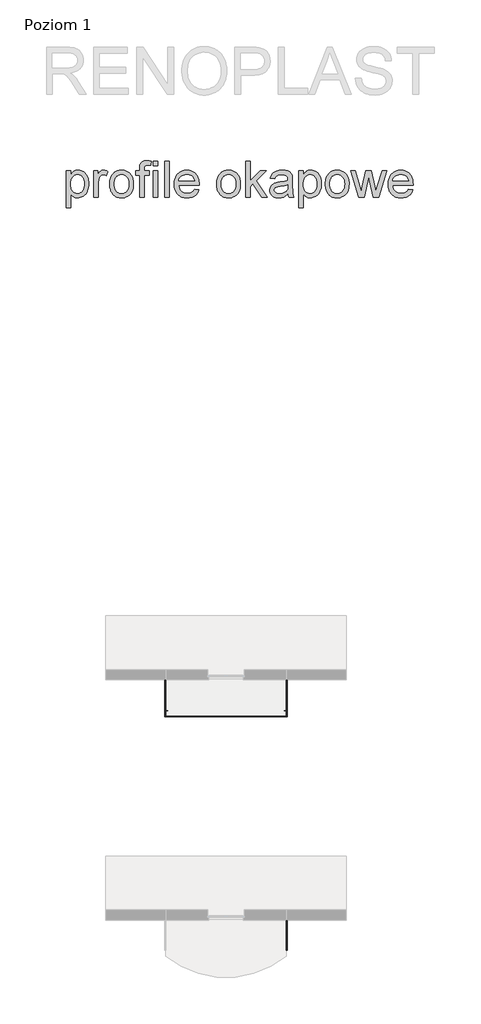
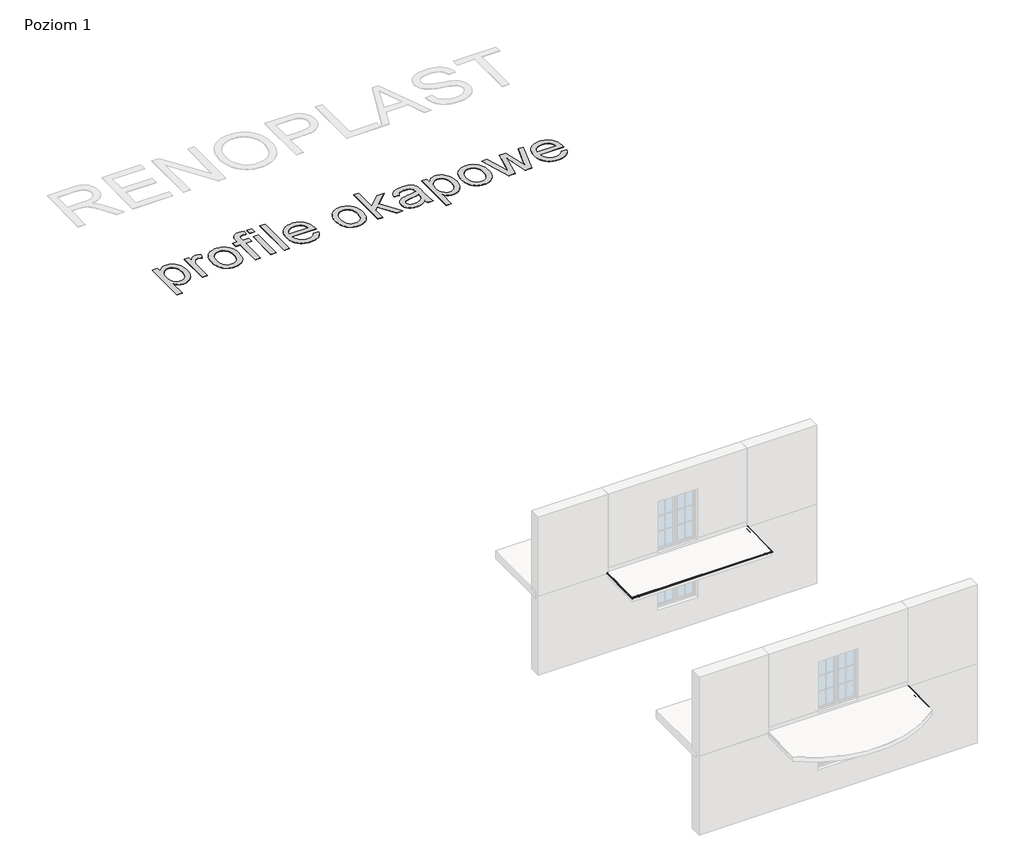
# One storey, part 2 of 3: 8 proxies.
"""IFC4 building model written with IfcOpenShell, lengths in millimetres."""

from ifc_helpers import new_model, si_unit, origin, origin_with_axes, place, context, project, spatial, polyline, outline, extrude, transform, mapped, element, save
from components import generic_models_af526118, generic_models_eb490aad, k20_9d933942, k20_2974e2ec, k20_afda6247, k20_fda8f904

model = new_model("IFC4")

# Units and contexts
model_context = context("Model", 3, world=origin())
ifc_project = project(units=[si_unit("LENGTHUNIT", "METRE", prefix="MILLI")], contexts=[model_context])

# Site, building, storey
site = spatial("IfcSite", under=ifc_project)
building = spatial("IfcBuilding", under=site)
storey = spatial("IfcBuildingStorey", under=building, Name="Poziom 1", Elevation=0.0)

# Proxies
placement = place(None, origin())
generic_models_shape = generic_models_af526118(model_context)
element("IfcBuildingElementProxy", 1, Name="Odbojnik - OPK20 : Odbojnik - OPK20", ObjectType="Odbojnik - OPK20 : Odbojnik - OPK20", at=placement, inside=storey, context=model_context, shape_type="MappedRepresentation", body=[
    mapped(generic_models_shape, transform((-86485.0900811, 32535.0974799, -112.1027843), x_axis=(0.0, 0.9998044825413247, 0.019773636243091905), y_axis=(-1.0000000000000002, 0.0, 0.0), z_axis=(0.0, -0.019773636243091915, 0.9998044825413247))),
])
element("IfcBuildingElementProxy", 2, Name="Odbojnik - OPK20 : Odbojnik - OPK20", ObjectType="Odbojnik - OPK20 : Odbojnik - OPK20", at=placement, inside=storey, context=model_context, shape_type="MappedRepresentation", body=[
    mapped(generic_models_shape, transform((-86485.089939, 22532.8604147, -111.2938125), x_axis=(0.0, 0.9999253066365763, 0.01222215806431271), y_axis=(-1.0, 0.0, 0.0), z_axis=(0.0, -0.01222215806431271, 0.9999253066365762))),
])
generic_models_2_shape = generic_models_eb490aad(model_context)
element("IfcBuildingElementProxy", 3, Name="Odbojnik - OPK20 : Odbojnik - OPK20", ObjectType="Odbojnik - OPK20 : Odbojnik - OPK20", at=placement, inside=storey, context=model_context, shape_type="MappedRepresentation", body=[
    mapped(generic_models_2_shape, transform((-91537.0894912, 32534.794121, -112.108784), x_axis=(0.0, 0.9998044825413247, 0.019773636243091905), y_axis=(-1.0000000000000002, 0.0, 0.0), z_axis=(0.0, -0.019773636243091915, 0.9998044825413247))),
])
element("IfcBuildingElementProxy", 4, Name="1500 mm Arial", ObjectType="1500 mm Arial", at=placement, inside=storey, context=model_context, shape_type="SweptSolid", body=[
    extrude(outline(polyline([(-95661.6221224, 52181.1583137), (-95661.6221224, 53711.5474137), (-95473.2665409, 53711.5474137), (-95473.2665409, 53526.8706521), (-95443.4680993, 53575.672498), (-95411.8302477, 53617.9674312), (-95378.3529862, 53653.7554515), (-95343.0363146, 53683.036559), (-95304.8685576, 53705.8107538), (-95262.8380397, 53722.0780358), (-95216.9447608, 53731.838405), (-95167.1887209, 53735.0918614), (-95101.4987922, 53730.5393217), (-95039.8095801, 53716.8817026), (-94982.1210847, 53694.1190042), (-94928.4333061, 53662.2512263), (-94879.9188679, 53622.1061036), (-94837.7503942, 53574.5113705), (-94801.927885, 53519.4670269), (-94772.4513401, 53456.973073), (-94749.4357228, 53389.1678228), (-94732.9959961, 53318.1895903), (-94723.1321601, 53244.0383757), (-94719.8442148, 53166.7141788), (-94723.5575237, 53084.0441967), (-94734.6974503, 53005.6278502), (-94753.2639948, 52931.4651392), (-94779.257157, 52861.5560638), (-94812.3205513, 52797.7285377), (-94852.0977921, 52741.8104744), (-94898.5888792, 52693.801874), (-94951.7938128, 52653.7027365), (-95009.1029298, 52622.0763813), (-95067.9065675, 52599.4861275), (-95128.2047258, 52585.9319752), (-95189.9974046, 52581.4139245), (-95234.4536445, 52584.4374546), (-95276.5876292, 52593.5080451), (-95316.3993589, 52608.6256958), (-95353.8888335, 52629.7904069), (-95388.5962005, 52655.5766355), (-95420.0616074, 52684.5588389), (-95448.2850542, 52716.7370172), (-95473.2665409, 52752.1111703), (-95473.2665409, 52181.1583137), (-95661.6221224, 52181.1583137)]), holes=[polyline([(-95473.2665409, 53149.423725), (-95468.1736745, 53058.6488427), (-95452.8950754, 52980.5658893), (-95441.4361261, 52946.2838858), (-95427.4307436, 52915.1748646), (-95410.8789279, 52887.2388256), (-95391.780679, 52862.4757688), (-95348.864945, 52821.9167788), (-95301.6036049, 52792.9460717), (-95249.9966588, 52775.5636474), (-95194.0441066, 52769.769506), (-95137.2868125, 52775.7705811), (-95110.4860343, 52783.2719249), (-95084.7371688, 52793.7738062), (-95036.3951753, 52823.7791814), (-94992.2608322, 52865.7867068), (-94972.5590269, 52891.4407278), (-94955.484129, 52920.3941904), (-94941.0361385, 52952.6470947), (-94929.2150553, 52988.1994407), (-94920.0208795, 53027.0512282), (-94913.4536111, 53069.2024575), (-94908.1997963, 53163.4032409), (-94913.3271516, 53253.3963739), (-94928.7092176, 53331.3413717), (-94940.245767, 53365.7958198), (-94954.3459941, 53397.238234), (-94971.0098988, 53425.6686145), (-94990.2374812, 53451.0869611), (-95033.2566821, 53492.933538), (-95080.2765996, 53522.8239501), (-95131.2972338, 53540.7581974), (-95186.3185847, 53546.7362798), (-95214.1482828, 53545.1469147), (-95241.1674909, 53540.3788191), (-95267.376209, 53532.4319932), (-95292.774437, 53521.3064369), (-95341.1394231, 53489.5191333), (-95386.2624491, 53445.0169082), (-95406.6540331, 53418.1471521), (-95424.3267392, 53388.3975698), (-95439.2805675, 53355.7681613), (-95451.515518, 53320.2589266), (-95461.0315905, 53281.8698655), (-95467.8287852, 53240.6009783), (-95473.2665409, 53149.423725)])]), origin_with_axes(), (0.0, 0.0, 1.0), 10.0),
    extrude(outline(polyline([(-94507.9441856, 52604.9583722), (-94507.9441856, 53711.5474137), (-94343.1330517, 53711.5474137), (-94343.1330517, 53547.8399258), (-94312.0930084, 53600.1711396), (-94282.2485815, 53642.7534806), (-94253.5997712, 53675.5869486), (-94226.1465773, 53698.6715438), (-94198.6473981, 53714.6054328), (-94169.860632, 53725.986782), (-94139.7862789, 53732.8155915), (-94108.4243388, 53735.0918614), (-94061.7033254, 53731.4590267), (-94014.61443, 53720.5605226), (-93967.1576527, 53702.396349), (-93919.3329933, 53676.9665061), (-93982.2408145, 53508.1086703), (-94015.350194, 53525.0082495), (-94048.4595736, 53537.0793775), (-94081.5689532, 53544.3220542), (-94114.6783327, 53546.7362798), (-94143.545573, 53544.4140247), (-94170.9182927, 53537.4472595), (-94196.7964918, 53525.835984), (-94221.1801703, 53509.5801983), (-94243.1496232, 53489.2087328), (-94261.7851455, 53465.2504179), (-94277.0867373, 53437.7052535), (-94289.0543984, 53406.5732397), (-94302.4131134, 53355.1617308), (-94311.9550526, 53301.3589891), (-94317.6802162, 53245.1650143), (-94319.588604, 53186.5798066), (-94319.588604, 52604.9583722), (-94507.9441856, 52604.9583722)])), origin_with_axes(), (0.0, 0.0, 1.0), 10.0),
    extrude(outline(polyline([(-93848.6996502, 53158.2528929), (-93846.153217, 53232.3868631), (-93838.5139175, 53301.5659227), (-93825.7817515, 53365.7900716), (-93807.9567192, 53425.0593099), (-93785.0388206, 53479.3736376), (-93757.0280555, 53528.7330547), (-93723.9244241, 53573.1375611), (-93685.7279264, 53612.587157), (-93650.7676405, 53641.2991971), (-93613.944952, 53666.1829651), (-93575.259861, 53687.2384612), (-93534.7123673, 53704.4656853), (-93492.3024711, 53717.8646373), (-93448.0301722, 53727.4353173), (-93401.8954708, 53733.1777254), (-93353.8983667, 53735.0918614), (-93300.6963072, 53732.760984), (-93249.9831994, 53725.768352), (-93201.7590432, 53714.1139654), (-93156.0238385, 53697.7978241), (-93112.7775856, 53676.8199281), (-93072.0202842, 53651.1802775), (-93033.7519345, 53620.8788723), (-92997.9725364, 53585.9157123), (-92965.5960467, 53546.8426207), (-92937.5364223, 53504.2114205), (-92913.7936633, 53458.0221115), (-92894.3677695, 53408.2746939), (-92879.258741, 53354.9691676), (-92868.4665778, 53298.1055327), (-92861.9912798, 53237.683789), (-92859.8328472, 53173.7039367), (-92863.6496229, 53072.8812774), (-92875.09995, 52983.4169747), (-92894.1838285, 52905.3110286), (-92920.9012584, 52838.5634391), (-92954.9188466, 52780.9094327), (-92995.9032001, 52730.0842358), (-93043.854319, 52686.0878484), (-93098.772203, 52648.9202706), (-93158.5185383, 52619.3862442), (-93220.9550107, 52598.290511), (-93286.0816202, 52585.6330711), (-93353.8983667, 52581.4139245), (-93407.939657, 52583.7361796), (-93459.3310473, 52590.7029449), (-93508.0725375, 52602.3142203), (-93554.1641278, 52618.570006), (-93597.6058181, 52639.4703019), (-93638.3976084, 52665.0151079), (-93676.5394987, 52695.2044241), (-93712.031489, 52730.0382505), (-93744.0630893, 52769.2406757), (-93771.8238095, 52812.535788), (-93795.3136497, 52859.9235875), (-93814.5326099, 52911.4040742), (-93829.48069, 52966.9772481), (-93840.1578901, 53026.6431092), (-93846.5642102, 53090.4016574), (-93848.6996502, 53158.2528929)]), holes=[polyline([(-93660.3440687, 53158.6207749), (-93654.8948166, 53067.2595807), (-93648.0832516, 53026.1746344), (-93638.5470605, 52988.1534554), (-93626.2862433, 52953.1960436), (-93611.3008002, 52921.3023991), (-93593.590731, 52892.4725218), (-93573.1560358, 52866.7064118), (-93550.6577526, 52843.9868245), (-93526.7569192, 52824.2965155), (-93501.4535357, 52807.6354848), (-93474.7476021, 52794.0037325), (-93446.6391184, 52783.4012584), (-93417.1280846, 52775.8280626), (-93353.8983667, 52769.769506), (-93290.9905455, 52775.8625516), (-93261.6059712, 52783.4788585), (-93233.6009543, 52794.1416882), (-93206.9754949, 52807.8510407), (-93181.729593, 52824.6069159), (-93157.8632485, 52844.4093139), (-93135.3764616, 52867.2582347), (-93114.9417664, 52893.2284043), (-93097.2316972, 52922.3945488), (-93082.246254, 52954.756668), (-93069.9854369, 52990.3147621), (-93060.4492458, 53029.0688311), (-93053.6376808, 53071.0188748), (-93048.1884287, 53164.5068868), (-93053.6721697, 53252.9710104), (-93060.5268459, 53292.9178217), (-93070.1233927, 53330.0077994), (-93082.4618099, 53364.2409435), (-93097.5420976, 53395.617254), (-93115.3642558, 53424.1367309), (-93135.9282846, 53449.7993741), (-93182.4538606, 53492.2092704), (-93207.7083848, 53508.870301), (-93234.290733, 53522.5020534), (-93262.2009053, 53533.1045275), (-93291.4389017, 53540.6777232), (-93353.8983667, 53546.7362798), (-93417.1280846, 53540.7007159), (-93446.6391184, 53533.1562609), (-93474.7476021, 53522.5940239), (-93501.4535357, 53509.0140049), (-93526.7569192, 53492.416204), (-93550.6577526, 53472.800621), (-93573.1560358, 53450.1672561), (-93593.590731, 53424.4873684), (-93611.3008002, 53395.7322171), (-93626.2862433, 53363.9018023), (-93638.5470605, 53328.9961239), (-93648.0832516, 53291.015182), (-93654.8948166, 53249.9589765), (-93660.3440687, 53158.6207749)])]), origin_with_axes(), (0.0, 0.0, 1.0), 10.0),
    extrude(outline(polyline([(-92600.8439226, 52604.9583722), (-92600.8439226, 53523.1918321), (-92765.6550564, 53523.1918321), (-92765.6550564, 53711.5474137), (-92600.8439226, 53711.5474137), (-92600.8439226, 53823.0156582), (-92595.8775156, 53915.2620685), (-92589.669507, 53951.1075704), (-92580.9782948, 53980.1012702), (-92564.6075461, 54013.0497013), (-92543.0864493, 54042.7331798), (-92516.4150047, 54069.1517056), (-92484.5932121, 54092.3052787), (-92446.9312928, 54111.1362383), (-92402.7394682, 54124.5869238), (-92352.0177381, 54132.657335), (-92294.7661026, 54135.3474721), (-92213.0043292, 54130.1971242), (-92122.9652108, 54114.7460804), (-92150.5563605, 53938.1627227), (-92206.3824532, 53944.7845986), (-92259.0815491, 53946.9918906), (-92297.9505811, 53945.0375175), (-92330.6805824, 53939.1743982), (-92357.2715528, 53929.4025327), (-92377.7234925, 53915.721921), (-92392.9331137, 53896.7070204), (-92403.7971289, 53870.9322881), (-92410.315538, 53838.3977241), (-92412.488341, 53799.1033285), (-92412.488341, 53711.5474137), (-92200.5883118, 53711.5474137), (-92200.5883118, 53523.1918321), (-92412.488341, 53523.1918321), (-92412.488341, 52604.9583722), (-92600.8439226, 52604.9583722)])), origin_with_axes(), (0.0, 0.0, 1.0), 10.0),
    extrude(outline(polyline([(-92035.777178, 52604.9583722), (-92035.777178, 53711.5474137), (-91847.4215965, 53711.5474137), (-91847.4215965, 52604.9583722), (-92035.777178, 52604.9583722)])), origin_with_axes(), (0.0, 0.0, 1.0), 10.0),
    extrude(outline(polyline([(-92035.777178, 53923.4474429), (-92035.777178, 54111.8030244), (-91847.4215965, 54111.8030244), (-91847.4215965, 53923.4474429), (-92035.777178, 53923.4474429)])), origin_with_axes(), (0.0, 0.0, 1.0), 10.0),
    extrude(outline(polyline([(-91564.8882242, 52604.9583722), (-91564.8882242, 54111.8030244), (-91376.5326426, 54111.8030244), (-91376.5326426, 52604.9583722), (-91564.8882242, 52604.9583722)])), origin_with_axes(), (0.0, 0.0, 1.0), 10.0),
    extrude(outline(polyline([(-90319.2397885, 52934.5806399), (-90134.5630269, 52911.0361922), (-90162.8784442, 52837.0689185), (-90180.7523359, 52803.3789752), (-90201.1036828, 52771.8848275), (-90223.932485, 52742.5864755), (-90249.2387426, 52715.4839191), (-90277.0224555, 52690.5771584), (-90307.2836236, 52667.8661934), (-90339.8727951, 52647.6039428), (-90374.6405177, 52630.0433257), (-90411.5867915, 52615.184342), (-90450.7116165, 52603.0269917), (-90535.4969201, 52586.8171913), (-90628.9964284, 52581.4139245), (-90689.0244234, 52583.7448018), (-90745.8679398, 52590.7374338), (-90799.5269777, 52602.3918205), (-90850.001537, 52618.7079618), (-90897.2916179, 52639.6858577), (-90941.3972202, 52665.3255083), (-90982.318344, 52695.6269136), (-91020.0549893, 52730.5900735), (-91053.94037, 52769.7608838), (-91083.3076998, 52812.68524), (-91108.156979, 52859.3631422), (-91128.4882074, 52909.7945904), (-91144.301385, 52963.9795846), (-91155.5965119, 53021.9181248), (-91162.373588, 53083.6102109), (-91164.6326134, 53149.055843), (-91162.3505954, 53216.7288857), (-91155.5045414, 53280.5046785), (-91144.0944514, 53340.3832213), (-91128.1203254, 53396.3645143), (-91107.5821634, 53448.4485574), (-91082.4799654, 53496.6353506), (-91052.8137313, 53540.9248939), (-91018.5834613, 53581.3171874), (-90980.7146084, 53617.3581266), (-90940.1326258, 53648.5936072), (-90896.8375135, 53675.0236293), (-90850.8292715, 53696.6481929), (-90802.1078998, 53713.4672978), (-90750.6733983, 53725.4809442), (-90696.5257672, 53732.6891321), (-90639.6650063, 53735.0918614), (-90584.6637739, 53732.6948802), (-90532.2319674, 53725.5039369), (-90482.3695866, 53713.5190312), (-90435.0766317, 53696.7401634), (-90390.3531026, 53675.1673332), (-90348.1989993, 53648.8005409), (-90308.6143218, 53617.6397862), (-90271.5990701, 53581.6850694), (-90238.10169, 53541.3847464), (-90209.0706272, 53497.1871736), (-90184.5058818, 53449.0923509), (-90164.4074538, 53397.1002783), (-90148.7753431, 53341.2109558), (-90137.6095497, 53281.4243834), (-90130.9100737, 53217.7405612), (-90128.676915, 53150.159489), (-90129.780561, 53099.3917737), (-90976.2770319, 53099.3917737), (-90965.3670315, 53024.2288836), (-90955.8682034, 52990.1480656), (-90943.6734901, 52958.400999), (-90928.7828915, 52928.9876839), (-90911.1964077, 52901.9081202), (-90890.9140386, 52877.1623078), (-90867.9357843, 52854.7502469), (-90816.2828529, 52817.5711728), (-90758.6288465, 52791.0146912), (-90694.973765, 52775.0808023), (-90625.3176085, 52769.769506), (-90573.2163209, 52772.2297169), (-90525.0697648, 52779.6103494), (-90480.8779401, 52791.9114036), (-90440.6408469, 52809.1328795), (-90404.3584851, 52831.7346296), (-90372.0308548, 52860.1765063), (-90343.6579559, 52894.4585098), (-90319.2397885, 52934.5806399)]), holes=[polyline([(-90976.2770319, 53287.7473552), (-90317.0324965, 53287.7473552), (-90326.7123915, 53341.0442593), (-90342.5083247, 53387.2594349), (-90364.420296, 53426.3928822), (-90392.4483055, 53458.444601), (-90417.2458513, 53479.1379632), (-90443.8138291, 53497.0722105), (-90472.152239, 53512.2473428), (-90502.2610811, 53524.6633601), (-90567.7900615, 53541.2180499), (-90640.4007703, 53546.7362798), (-90706.6310257, 53542.3331922), (-90767.3660439, 53529.1239293), (-90822.6058247, 53507.1084912), (-90872.3503682, 53476.2868778), (-90914.0934784, 53438.0846318), (-90945.328959, 53393.9272961), (-90966.0568102, 53343.8148706), (-90976.2770319, 53287.7473552)])]), origin_with_axes(), (0.0, 0.0, 1.0), 10.0),
    extrude(outline(polyline([(-89398.7990366, 53158.2528929), (-89396.2526034, 53232.3868631), (-89388.6133038, 53301.5659227), (-89375.8811379, 53365.7900716), (-89358.0561056, 53425.0593099), (-89335.1382069, 53479.3736376), (-89307.1274419, 53528.7330547), (-89274.0238105, 53573.1375611), (-89235.8273127, 53612.587157), (-89200.8670268, 53641.2991971), (-89164.0443384, 53666.1829651), (-89125.3592473, 53687.2384612), (-89084.8117537, 53704.4656853), (-89042.4018574, 53717.8646373), (-88998.1295586, 53727.4353173), (-88951.9948571, 53733.1777254), (-88903.997753, 53735.0918614), (-88850.7956936, 53732.760984), (-88800.0825857, 53725.768352), (-88751.8584295, 53714.1139654), (-88706.1232249, 53697.7978241), (-88662.8769719, 53676.8199281), (-88622.1196706, 53651.1802775), (-88583.8513208, 53620.8788723), (-88548.0719227, 53585.9157123), (-88515.6954331, 53546.8426207), (-88487.6358087, 53504.2114205), (-88463.8930496, 53458.0221115), (-88444.4671558, 53408.2746939), (-88429.3581273, 53354.9691676), (-88418.5659641, 53298.1055327), (-88412.0906662, 53237.683789), (-88409.9322335, 53173.7039367), (-88413.7490092, 53072.8812774), (-88425.1993363, 52983.4169747), (-88444.2832148, 52905.3110286), (-88471.0006447, 52838.5634391), (-88505.018233, 52780.9094327), (-88546.0025865, 52730.0842358), (-88593.9537053, 52686.0878484), (-88648.8715894, 52648.9202706), (-88708.6179247, 52619.3862442), (-88771.054397, 52598.290511), (-88836.1810065, 52585.6330711), (-88903.997753, 52581.4139245), (-88958.0390433, 52583.7361796), (-89009.4304336, 52590.7029449), (-89058.1719239, 52602.3142203), (-89104.2635142, 52618.570006), (-89147.7052045, 52639.4703019), (-89188.4969948, 52665.0151079), (-89226.638885, 52695.2044241), (-89262.1308753, 52730.0382505), (-89294.1624756, 52769.2406757), (-89321.9231959, 52812.535788), (-89345.4130361, 52859.9235875), (-89364.6319963, 52911.4040742), (-89379.5800764, 52966.9772481), (-89390.2572765, 53026.6431092), (-89396.6635965, 53090.4016574), (-89398.7990366, 53158.2528929)]), holes=[polyline([(-89210.443455, 53158.6207749), (-89204.994203, 53067.2595807), (-89198.1826379, 53026.1746344), (-89188.6464468, 52988.1534554), (-89176.3856297, 52953.1960436), (-89161.4001865, 52921.3023991), (-89143.6901174, 52892.4725218), (-89123.2554222, 52866.7064118), (-89100.7571389, 52843.9868245), (-89076.8563055, 52824.2965155), (-89051.552922, 52807.6354848), (-89024.8469885, 52794.0037325), (-88996.7385048, 52783.4012584), (-88967.227471, 52775.8280626), (-88903.997753, 52769.769506), (-88841.0899319, 52775.8625516), (-88811.7053575, 52783.4788585), (-88783.7003406, 52794.1416882), (-88757.0748812, 52807.8510407), (-88731.8289793, 52824.6069159), (-88707.9626349, 52844.4093139), (-88685.4758479, 52867.2582347), (-88665.0411527, 52893.2284043), (-88647.3310835, 52922.3945488), (-88632.3456404, 52954.756668), (-88620.0848233, 52990.3147621), (-88610.5486322, 53029.0688311), (-88603.7370671, 53071.0188748), (-88598.2878151, 53164.5068868), (-88603.771556, 53252.9710104), (-88610.6262323, 53292.9178217), (-88620.222779, 53330.0077994), (-88632.5611962, 53364.2409435), (-88647.641484, 53395.617254), (-88665.4636422, 53424.1367309), (-88686.0276709, 53449.7993741), (-88732.553247, 53492.2092704), (-88757.8077711, 53508.870301), (-88784.3901194, 53522.5020534), (-88812.3002917, 53533.1045275), (-88841.5382881, 53540.6777232), (-88903.997753, 53546.7362798), (-88967.227471, 53540.7007159), (-88996.7385048, 53533.1562609), (-89024.8469885, 53522.5940239), (-89051.552922, 53509.0140049), (-89076.8563055, 53492.416204), (-89100.7571389, 53472.800621), (-89123.2554222, 53450.1672561), (-89143.6901174, 53424.4873684), (-89161.4001865, 53395.7322171), (-89176.3856297, 53363.9018023), (-89188.6464468, 53328.9961239), (-89198.1826379, 53291.015182), (-89204.994203, 53249.9589765), (-89210.443455, 53158.6207749)])]), origin_with_axes(), (0.0, 0.0, 1.0), 10.0),
    extrude(outline(polyline([(-88198.0322043, 52604.9583722), (-88198.0322043, 54111.8030244), (-88009.6766228, 54111.8030244), (-88009.6766228, 53302.094753), (-87587.3480923, 53711.5474137), (-87326.8876397, 53711.5474137), (-87754.3665181, 53296.9444051), (-87303.343192, 52604.9583722), (-87523.3366251, 52604.9583722), (-87889.3792103, 53165.9784148), (-88009.6766228, 53049.3598224), (-88009.6766228, 52604.9583722), (-88198.0322043, 52604.9583722)])), origin_with_axes(), (0.0, 0.0, 1.0), 10.0),
    extrude(outline(polyline([(-86432.1986275, 52746.2250583), (-86476.8618009, 52704.3095035), (-86522.1917605, 52669.0618098), (-86568.1885062, 52640.4819773), (-86614.8520381, 52618.570006), (-86662.7111864, 52602.3142203), (-86712.2947815, 52590.7029449), (-86763.6028235, 52583.7361796), (-86816.6353124, 52581.4139245), (-86900.500911, 52587.0011323), (-86938.5623271, 52593.985142), (-86974.0428211, 52603.7627557), (-87006.942393, 52616.3339733), (-87037.2610427, 52631.6987947), (-87064.9987703, 52649.8572201), (-87090.1555758, 52670.8092493), (-87112.5302737, 52693.9340816), (-87131.9216786, 52718.6109161), (-87148.3297904, 52744.8397527), (-87161.7546091, 52772.6205915), (-87172.1961348, 52801.9534324), (-87179.6543675, 52832.8382756), (-87185.6209536, 52899.2639683), (-87183.3676764, 52939.2021574), (-87176.6078447, 52977.3469218), (-87165.3414586, 53013.6982614), (-87149.568518, 53048.2561764), (-87130.1282539, 53080.26191), (-87107.8598968, 53108.9567056), (-87082.763447, 53134.3405632), (-87054.8389043, 53156.413483), (-86992.5288914, 53192.2819775), (-86922.953209, 53218.2176581), (-86855.1709514, 53232.6570265), (-86759.9814852, 53246.5445718), (-86656.3767183, 53260.7999991), (-86567.3952607, 53276.3430134), (-86493.0371124, 53293.1736147), (-86433.3022734, 53311.2918029), (-86432.1986275, 53353.2303504), (-86435.4405875, 53398.893703), (-86445.1664678, 53437.2913863), (-86461.3762682, 53468.4234001), (-86484.0699888, 53492.2897445), (-86523.2954065, 53516.1101037), (-86571.0740806, 53533.124646), (-86627.4060111, 53543.3333714), (-86692.291198, 53546.7362798), (-86752.6238452, 53544.4715063), (-86804.4952066, 53537.6771857), (-86847.905282, 53526.353318), (-86882.8540715, 53510.4999033), (-86911.5718598, 53488.8753398), (-86936.2889313, 53460.2380257), (-86957.0052862, 53424.5879611), (-86973.7209244, 53381.925146), (-87162.0765059, 53405.4695937), (-87147.7406044, 53459.732188), (-87129.3809936, 53508.4765523), (-87106.9976734, 53551.7026868), (-87080.590644, 53589.4105913), (-87049.0217702, 53622.3590225), (-87011.1529174, 53651.306737), (-86966.9840853, 53676.2537348), (-86916.5152741, 53697.2000159), (-86860.7696555, 53713.7776983), (-86800.7704014, 53725.6189), (-86736.5175116, 53732.723621), (-86668.0109864, 53735.0918614), (-86601.0449669, 53732.9995325), (-86540.6778308, 53726.722546), (-86486.9095779, 53716.2609017), (-86439.7402084, 53701.6145998), (-86398.7788475, 53683.806812), (-86363.6346206, 53663.86071), (-86334.3075278, 53641.776294), (-86310.797569, 53617.5535639), (-86291.7366832, 53590.5947114), (-86275.756809, 53560.3019284), (-86262.8579465, 53526.6752148), (-86253.0400958, 53489.7145706), (-86246.1423084, 53424.5994574), (-86243.8430459, 53324.9034367), (-86243.8430459, 53090.5626058), (-86241.451813, 52886.4340837), (-86234.278114, 52763.3315711), (-86220.1146572, 52682.4435174), (-86196.7541505, 52604.9583722), (-86385.1097321, 52604.9583722), (-86401.8483628, 52636.4122828), (-86415.2760557, 52670.4413673), (-86425.3928105, 52707.0456258), (-86432.1986275, 52746.2250583)]), holes=[polyline([(-86432.1986275, 53122.9362214), (-86489.1283662, 53106.6344505), (-86558.7500338, 53091.5742813), (-86736.0691555, 53065.1787481), (-86833.7878104, 53050.7393798), (-86898.1211743, 53034.6445425), (-86940.289648, 53013.7672393), (-86957.2697014, 53000.3625391), (-86971.5136324, 52984.9804732), (-86982.7800185, 52968.1728645), (-86990.8274371, 52950.4915362), (-86995.6558883, 52931.936488), (-86997.265372, 52912.5077201), (-86993.7589968, 52883.2381089), (-86983.239871, 52856.4976864), (-86965.7079946, 52832.2864526), (-86941.1633678, 52810.6044075), (-86909.8359166, 52792.7391381), (-86871.9555674, 52779.9782314), (-86827.5223202, 52772.3216874), (-86776.5361749, 52769.769506), (-86724.4808726, 52772.5861025), (-86675.3686263, 52781.0358921), (-86629.1994359, 52795.1188748), (-86585.9733014, 52814.8350504), (-86546.9778099, 52838.5519428), (-86513.5005484, 52864.6370755), (-86485.5415168, 52893.0904486), (-86463.100715, 52923.912062), (-86450.0638968, 52951.5032116), (-86440.7518838, 52984.9804732), (-86435.164676, 53024.3438467), (-86433.3022734, 53069.5933321), (-86432.1986275, 53122.9362214)])]), origin_with_axes(), (0.0, 0.0, 1.0), 10.0),
    extrude(outline(polyline([(-85984.8541213, 52181.1583137), (-85984.8541213, 53711.5474137), (-85796.4985398, 53711.5474137), (-85796.4985398, 53526.8706521), (-85766.7000982, 53575.672498), (-85735.0622466, 53617.9674312), (-85701.584985, 53653.7554515), (-85666.2683135, 53683.036559), (-85628.1005565, 53705.8107538), (-85586.0700385, 53722.0780358), (-85540.1767596, 53731.838405), (-85490.4207198, 53735.0918614), (-85424.730791, 53730.5393217), (-85363.041579, 53716.8817026), (-85305.3530836, 53694.1190042), (-85251.6653049, 53662.2512263), (-85203.1508668, 53622.1061036), (-85160.9823931, 53574.5113705), (-85125.1598838, 53519.4670269), (-85095.683339, 53456.973073), (-85072.6677217, 53389.1678228), (-85056.227995, 53318.1895903), (-85046.364159, 53244.0383757), (-85043.0762137, 53166.7141788), (-85046.7895226, 53084.0441967), (-85057.9294492, 53005.6278502), (-85076.4959937, 52931.4651392), (-85102.4891559, 52861.5560638), (-85135.5525502, 52797.7285377), (-85175.3297909, 52741.8104744), (-85221.8208781, 52693.801874), (-85275.0258116, 52653.7027365), (-85332.3349287, 52622.0763813), (-85391.1385664, 52599.4861275), (-85451.4367246, 52585.9319752), (-85513.2294035, 52581.4139245), (-85557.6856434, 52584.4374546), (-85599.8196281, 52593.5080451), (-85639.6313578, 52608.6256958), (-85677.1208324, 52629.7904069), (-85711.8281993, 52655.5766355), (-85743.2936062, 52684.5588389), (-85771.5170531, 52716.7370172), (-85796.4985398, 52752.1111703), (-85796.4985398, 52181.1583137), (-85984.8541213, 52181.1583137)]), holes=[polyline([(-85796.4985398, 53149.423725), (-85791.4056734, 53058.6488427), (-85776.1270743, 52980.5658893), (-85764.668125, 52946.2838858), (-85750.6627424, 52915.1748646), (-85734.1109267, 52887.2388256), (-85715.0126779, 52862.4757688), (-85672.0969439, 52821.9167788), (-85624.8356038, 52792.9460717), (-85573.2286577, 52775.5636474), (-85517.2761054, 52769.769506), (-85460.5188114, 52775.7705811), (-85433.7180332, 52783.2719249), (-85407.9691676, 52793.7738062), (-85359.6271742, 52823.7791814), (-85315.4928311, 52865.7867068), (-85295.7910258, 52891.4407278), (-85278.7161279, 52920.3941904), (-85264.2681373, 52952.6470947), (-85252.4470542, 52988.1994407), (-85243.2528784, 53027.0512282), (-85236.6856099, 53069.2024575), (-85231.4317952, 53163.4032409), (-85236.5591505, 53253.3963739), (-85251.9412164, 53331.3413717), (-85263.4777659, 53365.7958198), (-85277.577993, 53397.238234), (-85294.2418977, 53425.6686145), (-85313.4694801, 53451.0869611), (-85356.4886809, 53492.933538), (-85403.5085984, 53522.8239501), (-85454.5292326, 53540.7581974), (-85509.5505835, 53546.7362798), (-85537.3802817, 53545.1469147), (-85564.3994898, 53540.3788191), (-85590.6082078, 53532.4319932), (-85616.0064359, 53521.3064369), (-85664.371422, 53489.5191333), (-85709.4944479, 53445.0169082), (-85729.886032, 53418.1471521), (-85747.5587381, 53388.3975698), (-85762.5125664, 53355.7681613), (-85774.7475168, 53320.2589266), (-85784.2635894, 53281.8698655), (-85791.060784, 53240.6009783), (-85796.4985398, 53149.423725)])]), origin_with_axes(), (0.0, 0.0, 1.0), 10.0),
    extrude(outline(polyline([(-84878.2650798, 53158.2528929), (-84875.7186466, 53232.3868631), (-84868.0793471, 53301.5659227), (-84855.3471812, 53365.7900716), (-84837.5221489, 53425.0593099), (-84814.6042502, 53479.3736376), (-84786.5934852, 53528.7330547), (-84753.4898537, 53573.1375611), (-84715.293356, 53612.587157), (-84680.3330701, 53641.2991971), (-84643.5103817, 53666.1829651), (-84604.8252906, 53687.2384612), (-84564.2777969, 53704.4656853), (-84521.8679007, 53717.8646373), (-84477.5956018, 53727.4353173), (-84431.4609004, 53733.1777254), (-84383.4637963, 53735.0918614), (-84330.2617368, 53732.760984), (-84279.548629, 53725.768352), (-84231.3244728, 53714.1139654), (-84185.5892682, 53697.7978241), (-84142.3430152, 53676.8199281), (-84101.5857138, 53651.1802775), (-84063.3173641, 53620.8788723), (-84027.537966, 53585.9157123), (-83995.1614763, 53546.8426207), (-83967.101852, 53504.2114205), (-83943.3590929, 53458.0221115), (-83923.9331991, 53408.2746939), (-83908.8241706, 53354.9691676), (-83898.0320074, 53298.1055327), (-83891.5567094, 53237.683789), (-83889.3982768, 53173.7039367), (-83893.2150525, 53072.8812774), (-83904.6653796, 52983.4169747), (-83923.7492581, 52905.3110286), (-83950.466688, 52838.5634391), (-83984.4842762, 52780.9094327), (-84025.4686298, 52730.0842358), (-84073.4197486, 52686.0878484), (-84128.3376327, 52648.9202706), (-84188.0839679, 52619.3862442), (-84250.5204403, 52598.290511), (-84315.6470498, 52585.6330711), (-84383.4637963, 52581.4139245), (-84437.5050866, 52583.7361796), (-84488.8964769, 52590.7029449), (-84537.6379671, 52602.3142203), (-84583.7295574, 52618.570006), (-84627.1712477, 52639.4703019), (-84667.963038, 52665.0151079), (-84706.1049283, 52695.2044241), (-84741.5969186, 52730.0382505), (-84773.6285189, 52769.2406757), (-84801.3892391, 52812.535788), (-84824.8790794, 52859.9235875), (-84844.0980395, 52911.4040742), (-84859.0461197, 52966.9772481), (-84869.7233197, 53026.6431092), (-84876.1296398, 53090.4016574), (-84878.2650798, 53158.2528929)]), holes=[polyline([(-84689.9094983, 53158.6207749), (-84684.4602462, 53067.2595807), (-84677.6486812, 53026.1746344), (-84668.1124901, 52988.1534554), (-84655.851673, 52953.1960436), (-84640.8662298, 52921.3023991), (-84623.1561606, 52892.4725218), (-84602.7214654, 52866.7064118), (-84580.2231822, 52843.9868245), (-84556.3223488, 52824.2965155), (-84531.0189653, 52807.6354848), (-84504.3130317, 52794.0037325), (-84476.204548, 52783.4012584), (-84446.6935142, 52775.8280626), (-84383.4637963, 52769.769506), (-84320.5559751, 52775.8625516), (-84291.1714008, 52783.4788585), (-84263.1663839, 52794.1416882), (-84236.5409245, 52807.8510407), (-84211.2950226, 52824.6069159), (-84187.4286781, 52844.4093139), (-84164.9418912, 52867.2582347), (-84144.507196, 52893.2284043), (-84126.7971268, 52922.3945488), (-84111.8116837, 52954.756668), (-84099.5508665, 52990.3147621), (-84090.0146754, 53029.0688311), (-84083.2031104, 53071.0188748), (-84077.7538583, 53164.5068868), (-84083.2375993, 53252.9710104), (-84090.0922755, 53292.9178217), (-84099.6888223, 53330.0077994), (-84112.0272395, 53364.2409435), (-84127.1075272, 53395.617254), (-84144.9296855, 53424.1367309), (-84165.4937142, 53449.7993741), (-84212.0192902, 53492.2092704), (-84237.2738144, 53508.870301), (-84263.8561626, 53522.5020534), (-84291.7663349, 53533.1045275), (-84321.0043313, 53540.6777232), (-84383.4637963, 53546.7362798), (-84446.6935142, 53540.7007159), (-84476.204548, 53533.1562609), (-84504.3130317, 53522.5940239), (-84531.0189653, 53509.0140049), (-84556.3223488, 53492.416204), (-84580.2231822, 53472.800621), (-84602.7214654, 53450.1672561), (-84623.1561606, 53424.4873684), (-84640.8662298, 53395.7322171), (-84655.851673, 53363.9018023), (-84668.1124901, 53328.9961239), (-84677.6486812, 53291.015182), (-84684.4602462, 53249.9589765), (-84689.9094983, 53158.6207749)])]), origin_with_axes(), (0.0, 0.0, 1.0), 10.0),
    extrude(outline(polyline([(-83493.925132, 52604.9583722), (-83830.5371576, 53711.5474137), (-83634.8239361, 53711.5474137), (-83443.8931806, 53065.9145121), (-83386.8714714, 52835.2525012), (-83340.150458, 53057.4532262), (-83188.215194, 53711.5474137), (-82963.8071769, 53711.5474137), (-82812.6076769, 53059.2926362), (-82771.0370115, 52858.0611849), (-82711.4401282, 53070.3290961), (-82520.1414907, 53711.5474137), (-82323.6925053, 53711.5474137), (-82662.8797049, 52604.9583722), (-82890.5986599, 52604.9583722), (-83035.176284, 53253.9022117), (-83077.1148314, 53456.237309), (-83263.631003, 52604.9583722), (-83493.925132, 52604.9583722)])), origin_with_axes(), (0.0, 0.0, 1.0), 10.0),
    extrude(outline(polyline([(-81419.4385612, 52934.5806399), (-81234.7617996, 52911.0361922), (-81263.0772169, 52837.0689185), (-81280.9511085, 52803.3789752), (-81301.3024555, 52771.8848275), (-81324.1312577, 52742.5864755), (-81349.4375153, 52715.4839191), (-81377.2212281, 52690.5771584), (-81407.4823963, 52667.8661934), (-81440.0715678, 52647.6039428), (-81474.8392904, 52630.0433257), (-81511.7855642, 52615.184342), (-81550.9103892, 52603.0269917), (-81635.6956928, 52586.8171913), (-81729.1952011, 52581.4139245), (-81789.223196, 52583.7448018), (-81846.0667125, 52590.7374338), (-81899.7257503, 52602.3918205), (-81950.2003097, 52618.7079618), (-81997.4903906, 52639.6858577), (-82041.5959929, 52665.3255083), (-82082.5171167, 52695.6269136), (-82120.253762, 52730.5900735), (-82154.1391426, 52769.7608838), (-82183.5064725, 52812.68524), (-82208.3557517, 52859.3631422), (-82228.6869801, 52909.7945904), (-82244.5001577, 52963.9795846), (-82255.7952846, 53021.9181248), (-82262.5723607, 53083.6102109), (-82264.8313861, 53149.055843), (-82262.5493681, 53216.7288857), (-82255.7033141, 53280.5046785), (-82244.2932241, 53340.3832213), (-82228.3190981, 53396.3645143), (-82207.7809361, 53448.4485574), (-82182.678738, 53496.6353506), (-82153.012504, 53540.9248939), (-82118.782234, 53581.3171874), (-82080.9133811, 53617.3581266), (-82040.3313985, 53648.5936072), (-81997.0362862, 53675.0236293), (-81951.0280442, 53696.6481929), (-81902.3066725, 53713.4672978), (-81850.872171, 53725.4809442), (-81796.7245399, 53732.6891321), (-81739.863779, 53735.0918614), (-81684.8625466, 53732.6948802), (-81632.4307401, 53725.5039369), (-81582.5683593, 53713.5190312), (-81535.2754044, 53696.7401634), (-81490.5518753, 53675.1673332), (-81448.397772, 53648.8005409), (-81408.8130945, 53617.6397862), (-81371.7978428, 53581.6850694), (-81338.3004627, 53541.3847464), (-81309.2693999, 53497.1871736), (-81284.7046545, 53449.0923509), (-81264.6062265, 53397.1002783), (-81248.9741157, 53341.2109558), (-81237.8083224, 53281.4243834), (-81231.1088463, 53217.7405612), (-81228.8756877, 53150.159489), (-81229.9793337, 53099.3917737), (-82076.4758046, 53099.3917737), (-82065.5658041, 53024.2288836), (-82056.0669761, 52990.1480656), (-82043.8722627, 52958.400999), (-82028.9816642, 52928.9876839), (-82011.3951803, 52901.9081202), (-81991.1128113, 52877.1623078), (-81968.134557, 52854.7502469), (-81916.4816256, 52817.5711728), (-81858.8276192, 52791.0146912), (-81795.1725377, 52775.0808023), (-81725.5163812, 52769.769506), (-81673.4150936, 52772.2297169), (-81625.2685375, 52779.6103494), (-81581.0767128, 52791.9114036), (-81540.8396196, 52809.1328795), (-81504.5572578, 52831.7346296), (-81472.2296275, 52860.1765063), (-81443.8567286, 52894.4585098), (-81419.4385612, 52934.5806399)]), holes=[polyline([(-82076.4758046, 53287.7473552), (-81417.2312692, 53287.7473552), (-81426.9111642, 53341.0442593), (-81442.7070974, 53387.2594349), (-81464.6190687, 53426.3928822), (-81492.6470782, 53458.444601), (-81517.4446239, 53479.1379632), (-81544.0126018, 53497.0722105), (-81572.3510117, 53512.2473428), (-81602.4598538, 53524.6633601), (-81667.9888342, 53541.2180499), (-81740.599543, 53546.7362798), (-81806.8297984, 53542.3331922), (-81867.5648165, 53529.1239293), (-81922.8045974, 53507.1084912), (-81972.5491409, 53476.2868778), (-82014.2922511, 53438.0846318), (-82045.5277317, 53393.9272961), (-82066.2555829, 53343.8148706), (-82076.4758046, 53287.7473552)])]), origin_with_axes(), (0.0, 0.0, 1.0), 10.0),
])
k20_shape = k20_9d933942(model_context)
element("IfcBuildingElementProxy", 5, Name="K20 Profil okapowy prosty : K20", ObjectType="K20 Profil okapowy prosty : K20", at=placement, inside=storey, context=model_context, shape_type="MappedRepresentation", body=[
    mapped(k20_shape, transform((-91521.0897862, 31027.3561559, -114.0), x_axis=(1.0, 0.0, 0.0), y_axis=(0.0, 0.9998044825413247, 0.019773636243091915), z_axis=(0.0, -0.019773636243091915, 0.9998044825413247))),
])
k20_2_shape = k20_2974e2ec(model_context)
element("IfcBuildingElementProxy", 6, Name="K20 Profil okapowy prosty : K20", ObjectType="K20 Profil okapowy prosty : K20", at=placement, inside=storey, context=model_context, shape_type="MappedRepresentation", body=[
    mapped(k20_2_shape, transform((-86501.0897862, 31247.3131421, -109.6498), x_axis=(0.0, 0.9998044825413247, 0.019773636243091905), y_axis=(-1.0000000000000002, 0.0, 0.0), z_axis=(0.0, -0.019773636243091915, 0.9998044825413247))),
])
k20_3_shape = k20_afda6247(model_context)
element("IfcBuildingElementProxy", 7, Name="K20 Profil okapowy prosty : K20", ObjectType="K20 Profil okapowy prosty : K20", at=placement, inside=storey, context=model_context, shape_type="MappedRepresentation", body=[
    mapped(k20_3_shape, transform((-91521.0897862, 31247.3131421, -109.6498), x_axis=(0.0, 0.9998044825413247, 0.019773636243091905), y_axis=(-1.0000000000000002, 0.0, 0.0), z_axis=(0.0, -0.019773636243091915, 0.9998044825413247))),
])
k20_4_shape = k20_fda8f904(model_context)
element("IfcBuildingElementProxy", 8, Name="K20 Profil okapowy prosty : K20", ObjectType="K20 Profil okapowy prosty : K20", at=placement, inside=storey, context=model_context, shape_type="MappedRepresentation", body=[
    mapped(k20_4_shape, transform((-86501.0896441, 21282.6125793, -98.6569116), x_axis=(0.0, 0.9999253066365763, 0.01222215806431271), y_axis=(-1.0, 0.0, 0.0), z_axis=(0.0, -0.01222215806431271, 0.9999253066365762))),
])

save(model, "model.ifc")
